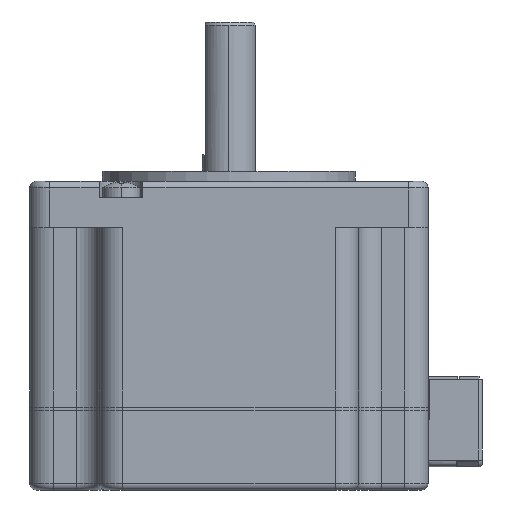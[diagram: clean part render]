
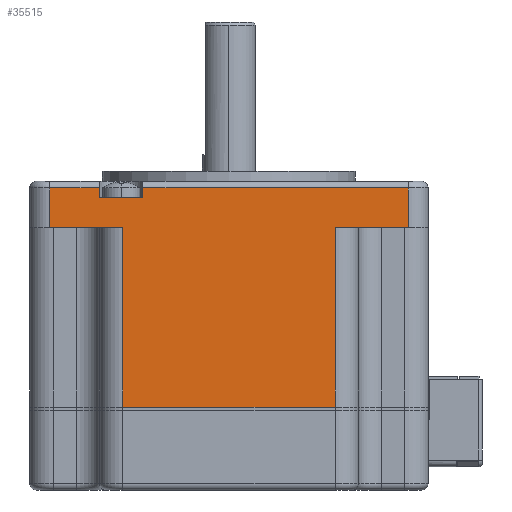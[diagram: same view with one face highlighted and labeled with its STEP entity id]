
A CAD part, left-side view. The second image highlights one B-rep face of the part: STEP entity #35515.
In plain terms, the highlighted planar face has unit normal (-1, 0, 0).
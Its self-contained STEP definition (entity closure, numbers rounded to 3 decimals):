
#1865=DIRECTION('',(0.,0.,1.));
#1866=VECTOR('',#1865,6.);
#1867=CARTESIAN_POINT('',(-30.,27.,39.5));
#1868=LINE('',#1867,#1866);
#1869=DIRECTION('',(0.,-1.,0.));
#1870=VECTOR('',#1869,7.45);
#1871=CARTESIAN_POINT('',(-30.,27.,45.5));
#1872=LINE('',#1871,#1870);
#1873=DIRECTION('',(0.,0.,-1.));
#1874=VECTOR('',#1873,1.5);
#1875=CARTESIAN_POINT('',(-30.,19.55,45.5));
#1876=LINE('',#1875,#1874);
#1877=DIRECTION('',(0.,1.,0.));
#1878=VECTOR('',#1877,6.6);
#1879=CARTESIAN_POINT('',(-30.,12.95,44.));
#1880=LINE('',#1879,#1878);
#1881=DIRECTION('',(0.,0.,-1.));
#1882=VECTOR('',#1881,1.5);
#1883=CARTESIAN_POINT('',(-30.,12.95,45.5));
#1884=LINE('',#1883,#1882);
#1885=DIRECTION('',(0.,-1.,0.));
#1886=VECTOR('',#1885,39.95);
#1887=CARTESIAN_POINT('',(-30.,12.95,45.5));
#1888=LINE('',#1887,#1886);
#1889=DIRECTION('',(0.,0.,1.));
#1890=VECTOR('',#1889,6.);
#1891=CARTESIAN_POINT('',(-30.,-27.,39.5));
#1892=LINE('',#1891,#1890);
#1902=DIRECTION('',(0.,0.,-1.));
#1903=VECTOR('',#1902,27.);
#1904=CARTESIAN_POINT('',(-30.,16.,39.5));
#1905=LINE('',#1904,#1903);
#2120=DIRECTION('',(0.,0.,1.));
#2121=VECTOR('',#2120,27.);
#2122=CARTESIAN_POINT('',(-30.,-16.,12.5));
#2123=LINE('',#2122,#2121);
#2137=DIRECTION('',(0.,-1.,0.));
#2138=VECTOR('',#2137,11.);
#2139=CARTESIAN_POINT('',(-30.,-16.,39.5));
#2140=LINE('',#2139,#2138);
#2266=DIRECTION('',(0.,1.,0.));
#2267=VECTOR('',#2266,32.);
#2268=CARTESIAN_POINT('',(-30.,-16.,12.5));
#2269=LINE('',#2268,#2267);
#21055=DIRECTION('',(0.,-1.,0.));
#21056=VECTOR('',#21055,11.);
#21057=CARTESIAN_POINT('',(-30.,27.,39.5));
#21058=LINE('',#21057,#21056);
#28101=CARTESIAN_POINT('',(-30.,16.,12.5));
#28103=VERTEX_POINT('',#28101);
#28186=CARTESIAN_POINT('',(-30.,-16.,12.5));
#28188=VERTEX_POINT('',#28186);
#31295=CARTESIAN_POINT('',(-30.,27.,39.5));
#31297=VERTEX_POINT('',#31295);
#31298=CARTESIAN_POINT('',(-30.,-27.,39.5));
#31300=VERTEX_POINT('',#31298);
#31332=CARTESIAN_POINT('',(-30.,16.,39.5));
#31333=VERTEX_POINT('',#31332);
#31334=CARTESIAN_POINT('',(-30.,-16.,39.5));
#31335=VERTEX_POINT('',#31334);
#31422=CARTESIAN_POINT('',(-30.,12.95,44.));
#31423=CARTESIAN_POINT('',(-30.,19.55,44.));
#31424=VERTEX_POINT('',#31422);
#31425=VERTEX_POINT('',#31423);
#31495=CARTESIAN_POINT('',(-30.,19.55,45.5));
#31497=VERTEX_POINT('',#31495);
#31498=CARTESIAN_POINT('',(-30.,27.,45.5));
#31499=VERTEX_POINT('',#31498);
#31520=CARTESIAN_POINT('',(-30.,-27.,45.5));
#31521=VERTEX_POINT('',#31520);
#31522=CARTESIAN_POINT('',(-30.,12.95,45.5));
#31524=VERTEX_POINT('',#31522);
#35490=CARTESIAN_POINT('',(-30.,-30.,36.));
#35491=DIRECTION('',(-1.,0.,0.));
#35492=DIRECTION('',(0.,1.,0.));
#35493=AXIS2_PLACEMENT_3D('',#35490,#35491,#35492);
#35494=PLANE('',#35493);
#35496=ORIENTED_EDGE('',*,*,#35495,.F.);
#35498=ORIENTED_EDGE('',*,*,#35497,.F.);
#35499=ORIENTED_EDGE('',*,*,#35481,.T.);
#35500=ORIENTED_EDGE('',*,*,#35054,.T.);
#35501=ORIENTED_EDGE('',*,*,#35073,.T.);
#35502=ORIENTED_EDGE('',*,*,#35100,.F.);
#35503=ORIENTED_EDGE('',*,*,#35119,.F.);
#35504=ORIENTED_EDGE('',*,*,#35136,.T.);
#35506=ORIENTED_EDGE('',*,*,#35505,.F.);
#35508=ORIENTED_EDGE('',*,*,#35507,.F.);
#35510=ORIENTED_EDGE('',*,*,#35509,.F.);
#35512=ORIENTED_EDGE('',*,*,#35511,.T.);
#35513=EDGE_LOOP('',(#35496,#35498,#35499,#35500,#35501,#35502,#35503,#35504,
#35506,#35508,#35510,#35512));
#35514=FACE_OUTER_BOUND('',#35513,.F.);
#35515=ADVANCED_FACE('',(#35514),#35494,.T.);
#35054=EDGE_CURVE('',#31499,#31497,#1872,.T.);
#35073=EDGE_CURVE('',#31497,#31425,#1876,.T.);
#35100=EDGE_CURVE('',#31424,#31425,#1880,.T.);
#35119=EDGE_CURVE('',#31524,#31424,#1884,.T.);
#35136=EDGE_CURVE('',#31524,#31521,#1888,.T.);
#35481=EDGE_CURVE('',#31297,#31499,#1868,.T.);
#35495=EDGE_CURVE('',#31333,#28103,#1905,.T.);
#35497=EDGE_CURVE('',#31297,#31333,#21058,.T.);
#35505=EDGE_CURVE('',#31300,#31521,#1892,.T.);
#35507=EDGE_CURVE('',#31335,#31300,#2140,.T.);
#35509=EDGE_CURVE('',#28188,#31335,#2123,.T.);
#35511=EDGE_CURVE('',#28188,#28103,#2269,.T.);
